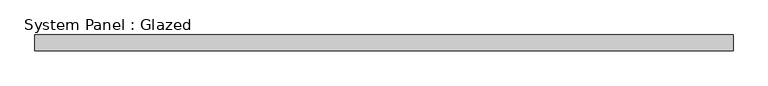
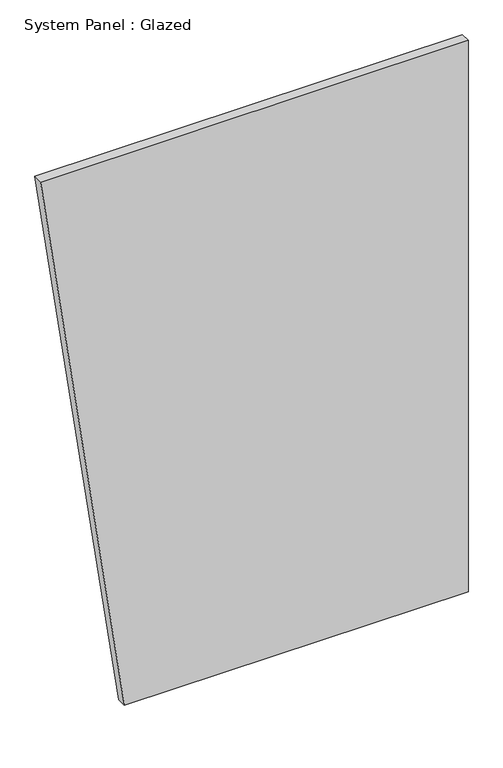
"""IFC4 building model written with IfcOpenShell, lengths in millimetres: plate geometry, System Panel : Glazed."""

from ifc_helpers import new_model, si_unit, frame, origin, place, context, project, spatial, polyline, outline, extrude, source, transform, mapped, element, save


def system_panel_glazed_38c300a3(model_context):
    return source(origin(), model_context, "Body", "SweptSolid", [
        extrude(outline(polyline([(0.0, -339.8848922), (0.0, 559.1654678), (1524.0, 559.1654678), (1524.0, -559.1654678), (0.0, -339.8848922)])), frame((0.0, 19.05, 0.0), z_axis=(0.0, 1.0, 0.0), x_axis=(0.0, 0.0, 1.0)), (0.0, 0.0, 1.0), 25.4),
    ])


if __name__ == "__main__":
    model = new_model("IFC4")
    model_context = context("Model", 3, world=origin())
    ifc_project = project(units=[si_unit("LENGTHUNIT", "METRE", prefix="MILLI")], contexts=[model_context])
    site = spatial("IfcSite", under=ifc_project)
    building = spatial("IfcBuilding", under=site)
    placement = place(None, origin())
    system_panel_glazed_shape = system_panel_glazed_38c300a3(model_context)
    element("IfcPlate", 1, ObjectType="System Panel : Glazed", at=placement, inside=building, context=model_context, shape_type="MappedRepresentation", body=[
        mapped(system_panel_glazed_shape, transform((0.0, 0.0, 0.0), x_axis=(1.0, 0.0, 0.0), y_axis=(0.0, 1.0, 0.0), z_axis=(0.0, 0.0, 1.0))),
    ])
    save(model, "model.ifc")
